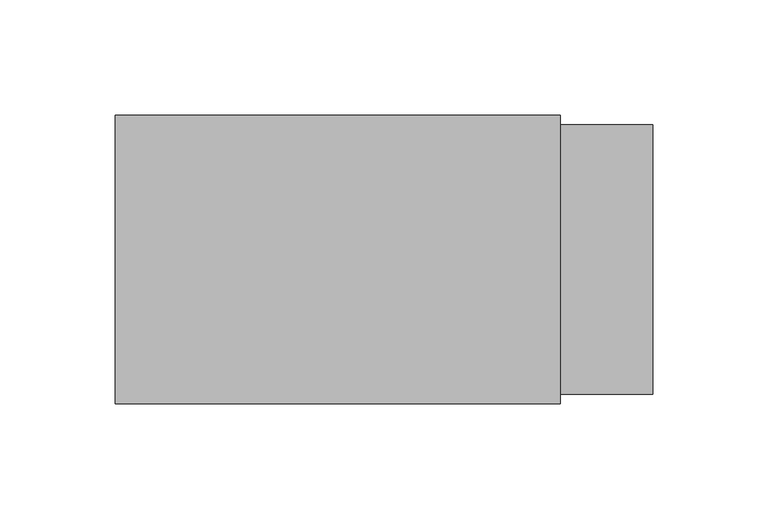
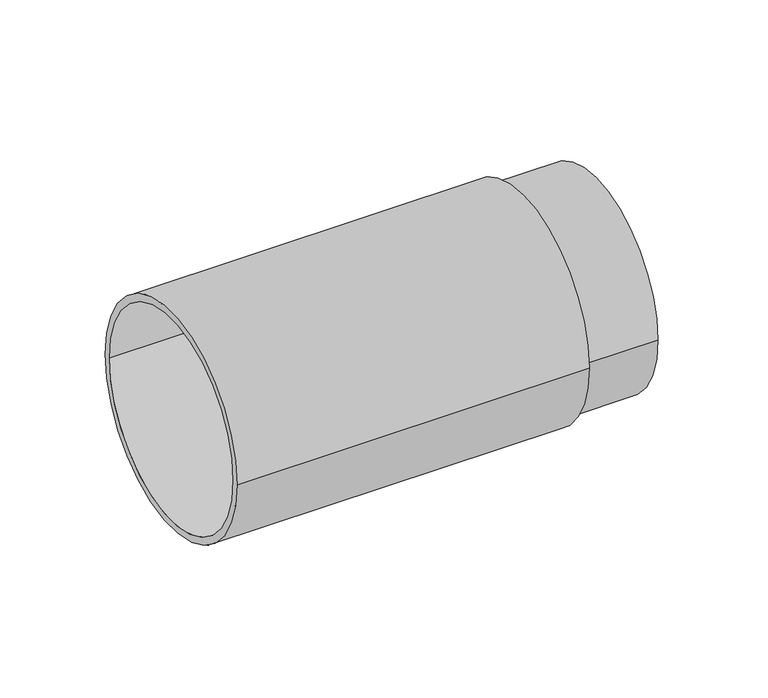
"""IFC4 building model written with IfcOpenShell, lengths in millimetres: duct fitting geometry, NLRS_57_DUF_UN_terminal extension_M&G : 117/125mm."""

import ifcopenshell
import ifcopenshell.guid

model = None  # the IFC model being written
_history = None  # IfcOwnerHistory: only IFC2X3 demands one
_inside = {}  # id of a spatial element -> (the spatial element, [elements in it])
_under = {}  # id of a project, library or spatial element -> (it, [spatial elements below it])
_declared = {}  # id of a project -> (the project, [libraries it declares])
_typed = {}  # id of a type object -> (the type object, [elements of that type])
_made_of = {}  # id of a material, layer set ... -> (it, [elements and type objects made of it])


def new_model(schema):
    """Start an empty IFC model of exactly this schema.

    Asked for "IFC4X3", IfcOpenShell would pick the latest addendum, in which some entities
    have other attributes; the version numbers below select the first issue.
    IFC2X3 requires an IfcOwnerHistory on every rooted entity: one is made here for all.
    """
    global model, _history
    if schema == "IFC4X3":
        model = ifcopenshell.file(schema_version=(4, 3, 0, 0))
    else:
        model = ifcopenshell.file(schema=schema)
    _inside.clear()
    _under.clear()
    _declared.clear()
    _typed.clear()
    _made_of.clear()
    _history = None
    if model.schema == "IFC2X3":
        org = make("IfcOrganization", Name="unknown")
        user = make(
            "IfcPersonAndOrganization",
            ThePerson=make("IfcPerson", FamilyName="unknown"),
            TheOrganization=org,
        )
        app = make(
            "IfcApplication",
            ApplicationDeveloper=org,
            Version="unknown",
            ApplicationFullName="unknown",
            ApplicationIdentifier="unknown",
        )
        _history = make(
            "IfcOwnerHistory",
            OwningUser=user,
            OwningApplication=app,
            ChangeAction="ADDED",
            CreationDate=0,
        )
    return model


def make(cls, **values):
    """One entity of the class cls with the attributes given. An attribute that is None is left unset."""
    return model.create_entity(
        cls, **{name: value for name, value in values.items() if value is not None}
    )


def rooted(cls, **values):
    """An entity with a GlobalId (a new one), such as an element, a storey or a relation."""
    return make(cls, GlobalId=ifcopenshell.guid.new(), OwnerHistory=_history, **values)


def si_unit(unit_type, name, prefix=None):
    """IfcSIUnit, for example si_unit("LENGTHUNIT", "METRE", prefix="MILLI")."""
    return make("IfcSIUnit", UnitType=unit_type, Prefix=prefix, Name=name)


def assignment(units):
    """IfcUnitAssignment: the units of a project."""
    return None if units is None else make("IfcUnitAssignment", Units=units)


def point(xyz):
    """IfcCartesianPoint."""
    return None if xyz is None else make("IfcCartesianPoint", Coordinates=xyz)


def direction(xyz):
    """IfcDirection."""
    return None if xyz is None else make("IfcDirection", DirectionRatios=xyz)


def frame(location, z_axis=None, x_axis=None):
    """IfcAxis2Placement3D, a coordinate frame: its origin and axes. An axis left out is left unset."""
    return make(
        "IfcAxis2Placement3D",
        Location=point(location),
        Axis=direction(z_axis),
        RefDirection=direction(x_axis),
    )


def frame_2d(location, x_axis=None):
    """IfcAxis2Placement2D, a coordinate frame in the plane: its origin and x axis."""
    return make(
        "IfcAxis2Placement2D", Location=point(location), RefDirection=direction(x_axis)
    )


def origin():
    """The frame at (0, 0, 0) with its axes left unset."""
    return frame((0.0, 0.0, 0.0))


def origin_2d():
    """The frame at (0, 0) in the plane with its x axis left unset."""
    return frame_2d((0.0, 0.0))


def place(relative_to, where):
    """IfcLocalPlacement: puts the frame where relative to a parent placement (None: the world)."""
    return make(
        "IfcLocalPlacement", PlacementRelTo=relative_to, RelativePlacement=where
    )


def context(
    kind, dimensions, precision=None, world=None, true_north=None, identifier=None
):
    """IfcGeometricRepresentationContext, for example the 3D "Model" context."""
    return make(
        "IfcGeometricRepresentationContext",
        ContextIdentifier=identifier,
        ContextType=kind,
        CoordinateSpaceDimension=dimensions,
        Precision=precision,
        WorldCoordinateSystem=world,
        TrueNorth=true_north,
    )


def project(units=None, contexts=None):
    """IfcProject with its units and contexts."""
    return rooted(
        "IfcProject",
        Name="project",
        RepresentationContexts=contexts,
        UnitsInContext=assignment(units),
    )


def spatial(cls, under=None, at=None, **own):
    """A site, building, storey or space (cls), placed at a placement, below another one or the project."""
    s = rooted(cls, ObjectPlacement=at, **own)
    if under is not None:
        _under.setdefault(under.id(), (under, []))[1].append(s)
    return s


def circle_curve(where, radius):
    """IfcCircle in the frame where."""
    return make("IfcCircle", Position=where, Radius=radius)


def trimmed(basis, trim1, trim2, sense, master):
    """IfcTrimmedCurve: the piece of a basis curve between two trims."""
    return make(
        "IfcTrimmedCurve",
        BasisCurve=basis,
        Trim1=trim1,
        Trim2=trim2,
        SenseAgreement=sense,
        MasterRepresentation=master,
    )


def segment(curve, same_sense, transition):
    """IfcCompositeCurveSegment."""
    return make(
        "IfcCompositeCurveSegment",
        Transition=transition,
        SameSense=same_sense,
        ParentCurve=curve,
    )


def composite_curve(segments, self_intersect=None):
    """IfcCompositeCurve: segments joined end to end."""
    return make("IfcCompositeCurve", Segments=segments, SelfIntersect=self_intersect)


def outline(outer, holes=None, kind="AREA"):
    """IfcArbitraryClosedProfileDef: a profile drawn as a closed curve; with holes, ...WithVoids."""
    if holes is None:
        return make("IfcArbitraryClosedProfileDef", ProfileType=kind, OuterCurve=outer)
    return make(
        "IfcArbitraryProfileDefWithVoids",
        ProfileType=kind,
        OuterCurve=outer,
        InnerCurves=holes,
    )


def extrude(swept, where, along, depth):
    """IfcExtrudedAreaSolid: the profile swept, set in the frame where, extruded along a direction by depth."""
    return make(
        "IfcExtrudedAreaSolid",
        SweptArea=swept,
        Position=where,
        ExtrudedDirection=direction(along),
        Depth=depth,
    )


def shape(context_of_items, identifier, shape_type, items):
    """IfcShapeRepresentation: the items that make up one representation, for example the "Body"."""
    return make(
        "IfcShapeRepresentation",
        ContextOfItems=context_of_items,
        RepresentationIdentifier=identifier,
        RepresentationType=shape_type,
        Items=items,
    )


def source(mapping_origin, context_of_items, identifier, shape_type, items):
    """IfcRepresentationMap: a shape defined once, which mapped items show again and again."""
    return make(
        "IfcRepresentationMap",
        MappingOrigin=mapping_origin,
        MappedRepresentation=shape(context_of_items, identifier, shape_type, items),
    )


def transform(
    local_origin,
    x_axis=None,
    y_axis=None,
    z_axis=None,
    scale=None,
    scale2=None,
    scale3=None,
    uniform=True,
):
    """IfcCartesianTransformationOperator3D, or its non-uniform kind. x_axis, y_axis, z_axis: its Axis1, 2, 3."""
    if uniform:
        return make(
            "IfcCartesianTransformationOperator3D",
            Axis1=direction(x_axis),
            Axis2=direction(y_axis),
            LocalOrigin=point(local_origin),
            Scale=scale,
            Axis3=direction(z_axis),
        )
    return make(
        "IfcCartesianTransformationOperator3DnonUniform",
        Axis1=direction(x_axis),
        Axis2=direction(y_axis),
        LocalOrigin=point(local_origin),
        Scale=scale,
        Axis3=direction(z_axis),
        Scale2=scale2,
        Scale3=scale3,
    )


def mapped(mapping_source, mapping_target):
    """IfcMappedItem: shows the shape of a source again, moved by a transform."""
    return make(
        "IfcMappedItem", MappingSource=mapping_source, MappingTarget=mapping_target
    )


def made_of(thing, what):
    """Note that an element or type object is made of a material, layer set ...; save() writes the relation."""
    if what is not None:
        _made_of.setdefault(what.id(), (what, []))[1].append(thing)
    return thing


def element(
    cls,
    number,
    at=None,
    inside=None,
    cuts=None,
    type_object=None,
    material=None,
    context=None,
    identifier="Body",
    shape_type=None,
    held_by="IfcProductDefinitionShape",
    body=None,
    shapes=None,
    **own,
):
    """One element of the class cls, such as IfcWall. Its Tag is "e" and its number.

    at: its placement. inside: the storey or other place that contains it. cuts: it is an
    opening in that element (IfcRelVoidsElement). A single representation is given by context,
    identifier, shape_type and body (its items); several are given by shapes. held_by: the class
    of the entity that holds the representations. save() writes the other relations.
    """
    e = rooted(cls, Tag="e%d" % number, ObjectPlacement=at, **own)
    if body is not None:
        shapes = [shape(context, identifier, shape_type, body)]
    if shapes is not None:
        e.Representation = make(held_by, Representations=shapes)
    if inside is not None:
        _inside.setdefault(inside.id(), (inside, []))[1].append(e)
    if cuts is not None:
        rooted(
            "IfcRelVoidsElement", RelatingBuildingElement=cuts, RelatedOpeningElement=e
        )
    if type_object is not None:
        _typed.setdefault(type_object.id(), (type_object, []))[1].append(e)
    return made_of(e, material)


def aggregate(whole, parts):
    """IfcRelAggregates: a whole, such as a stair, and the parts it consists of."""
    return rooted("IfcRelAggregates", RelatingObject=whole, RelatedObjects=parts)


def save(model, path):
    """Write the relations noted so far, then the file.

    IfcRelAggregates (storeys below a building ...), IfcRelContainedInSpatialStructure (elements
    in a storey), IfcRelDefinesByType, IfcRelAssociatesMaterial and IfcRelDeclares: one each for
    every whole, place, type object, material and project.
    """
    for whole, parts in _under.values():
        aggregate(whole, parts)
    for where, things in _inside.values():
        rooted(
            "IfcRelContainedInSpatialStructure",
            RelatedElements=things,
            RelatingStructure=where,
        )
    for kind, things in _typed.values():
        rooted("IfcRelDefinesByType", RelatedObjects=things, RelatingType=kind)
    for what, things in _made_of.values():
        rooted("IfcRelAssociatesMaterial", RelatedObjects=things, RelatingMaterial=what)
    for by, libraries in _declared.values():
        rooted("IfcRelDeclares", RelatingContext=by, RelatedDefinitions=libraries)
    model.write(path)


def duct_fitting_0a36da2e(model_context):
    return source(origin(), model_context, "Body", "SweptSolid", [
        extrude(outline(composite_curve([segment(trimmed(circle_curve(origin_2d(), 58.5), [point((-58.5, 0.0))], [point((58.5, 0.0))], False, "CARTESIAN"), True, "CONTINUOUS"), segment(trimmed(circle_curve(origin_2d(), 58.5), [point((58.5, 0.0))], [point((-58.5, 0.0))], False, "CARTESIAN"), True, "CONTINUOUS")], self_intersect=False)), frame((193.0, 0.0, 0.0), z_axis=(1.0, 0.0, 0.0), x_axis=(0.0, 1.0, 0.0)), (0.0, 0.0, 1.0), 40.0),
        extrude(outline(composite_curve([segment(trimmed(circle_curve(origin_2d(), 62.5), [point((-62.5, 0.0))], [point((62.5, 0.0))], False, "CARTESIAN"), True, "CONTINUOUS"), segment(trimmed(circle_curve(origin_2d(), 62.5), [point((62.5, 0.0))], [point((-62.5, 0.0))], False, "CARTESIAN"), True, "CONTINUOUS")], self_intersect=False), holes=[composite_curve([segment(trimmed(circle_curve(origin_2d(), 58.5), [point((-58.5, 0.0))], [point((58.5, 0.0))], True, "CARTESIAN"), True, "CONTINUOUS"), segment(trimmed(circle_curve(origin_2d(), 58.5), [point((58.5, 0.0))], [point((-58.5, 0.0))], True, "CARTESIAN"), True, "CONTINUOUS")], self_intersect=False)]), frame((0.0, 0.0, 0.0), z_axis=(1.0, 0.0, 0.0), x_axis=(0.0, 1.0, 0.0)), (0.0, 0.0, 1.0), 193.0),
    ])


if __name__ == "__main__":
    model = new_model("IFC4")
    model_context = context("Model", 3, world=origin())
    ifc_project = project(units=[si_unit("LENGTHUNIT", "METRE", prefix="MILLI")], contexts=[model_context])
    site = spatial("IfcSite", under=ifc_project)
    building = spatial("IfcBuilding", under=site)
    placement = place(None, origin())
    duct_fitting_shape = duct_fitting_0a36da2e(model_context)
    element("IfcDuctFitting", 1, ObjectType="NLRS_57_DUF_UN_terminal extension_M&G : 117/125mm", at=placement, inside=building, context=model_context, shape_type="MappedRepresentation", body=[
        mapped(duct_fitting_shape, transform((0.0, 0.0, 0.0), x_axis=(1.0, 0.0, 0.0), y_axis=(0.0, 1.0, 0.0), z_axis=(0.0, 0.0, 1.0))),
    ])
    save(model, "model.ifc")
